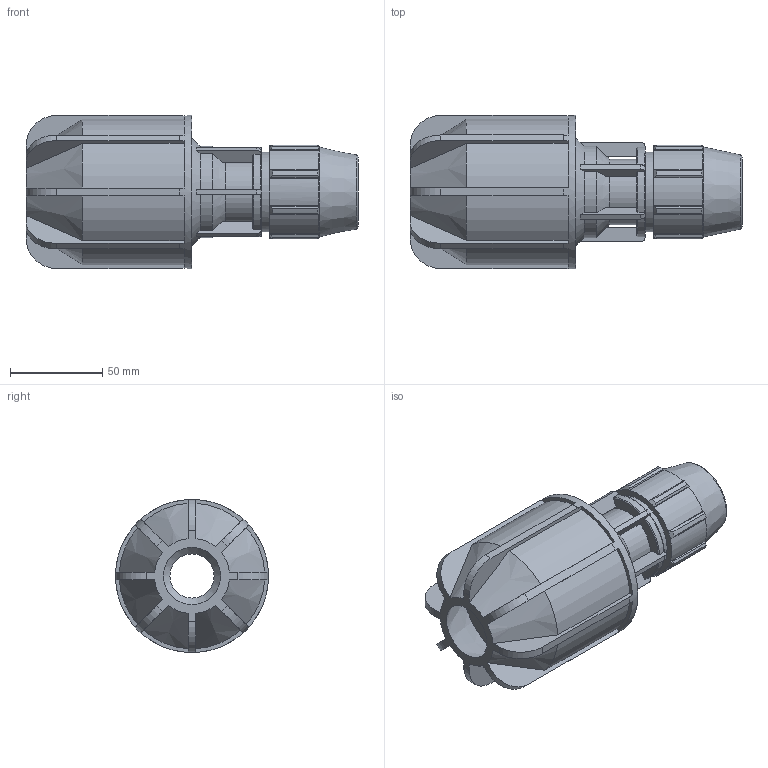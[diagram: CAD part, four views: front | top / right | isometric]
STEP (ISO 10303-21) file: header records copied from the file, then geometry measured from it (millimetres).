
FILE_DESCRIPTION(/* description */ ('PLASSON PLASS4 COUPLING 3/4'''' - 1.22'),/* implementation_level */ '2;1');
FILE_NAME(/* name */ 'C:\Dropbox\KIMPROJECTS-Inventor 2019\99-16-3568-Processing Inch\ASTM Compression 2021\070170M0\070170M07035.ipt.stp',/* time_stamp */ '2021-08-26T12:28:51+03:00',/* author */ ('KIM'),/* organization */ (''),/* preprocessor_version */ 'ST-DEVELOPER v17.2',/* originating_system */ 'Autodesk Inventor 2019',/* authorisation */ '');
FILE_SCHEMA (('AUTOMOTIVE_DESIGN { 1 0 10303 214 3 1 1 }'));
Length unit declared in the file: inch
Products named in the file (1): 070170M07035
Bounding box: 180.09 x 83.06 x 83.06 mm (x, y, z)
Volume: 360822 mm3; surface area: 75645.9 mm2
Topology: 1 solids, 1 shells, 206 faces, 632 edges, 422 vertices
Faces by surface type: plane 112, cylinder 56, cone 24, torus 14
Full cylindrical faces by diameter (mm): 23.94 x1, 26.6 x1, 35.686 x1, 38.089 x1, 43.282 x1, 83.058 x1
Entity records: 7481 total; most frequent: CARTESIAN_POINT 1649, ORIENTED_EDGE 1264, DIRECTION 1130, EDGE_CURVE 632, VERTEX_POINT 422, AXIS2_PLACEMENT_3D 401, LINE 328, VECTOR 328
